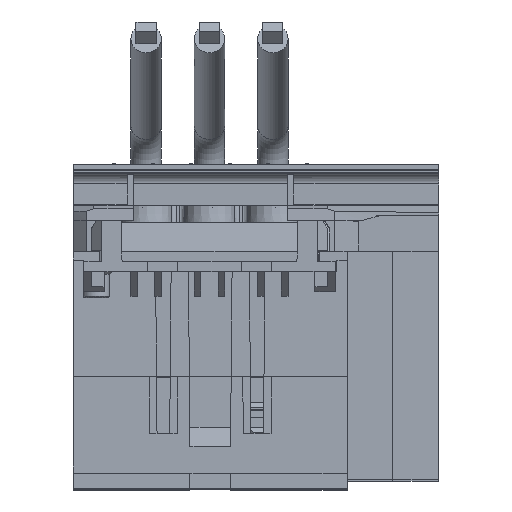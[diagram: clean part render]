
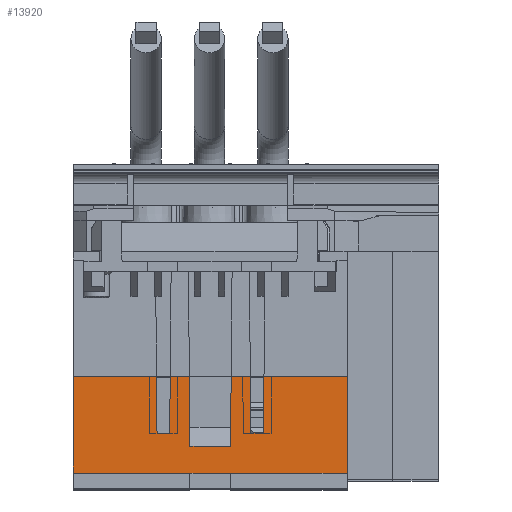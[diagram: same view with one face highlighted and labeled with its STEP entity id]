
A CAD part, top view. The second image highlights one B-rep face of the part: STEP entity #13920.
In plain terms, the highlighted planar face has unit normal (0, -0.009, 1).
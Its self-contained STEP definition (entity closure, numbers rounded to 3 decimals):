
#901 = CARTESIAN_POINT ( 'NONE',  ( -10.5, -15.7, 199.902 ) ) ;
#2065 = AXIS2_PLACEMENT_3D ( 'NONE', #58615, #24275, #66293 ) ;
#2462 = CARTESIAN_POINT ( 'NONE',  ( -4.122, -4.5, 199.999 ) ) ;
#2642 = VECTOR ( 'NONE', #19805, 1000. ) ;
#3294 = CARTESIAN_POINT ( 'NONE',  ( -7.902, -4.5, 199.999 ) ) ;
#4520 = CARTESIAN_POINT ( 'NONE',  ( -26., -4.5, 199.999 ) ) ;
#4852 = CARTESIAN_POINT ( 'NONE',  ( 10.778, 16.2, 200.18 ) ) ;
#5278 = CARTESIAN_POINT ( 'NONE',  ( -27., -4.5, 199.999 ) ) ;
#5394 = VECTOR ( 'NONE', #14022, 1000. ) ;
#6999 = CARTESIAN_POINT ( 'NONE',  ( -27., -23.5, 199.833 ) ) ;
#9077 = DIRECTION ( 'NONE',  ( 1., 0., 0. ) ) ;
#9949 = CARTESIAN_POINT ( 'NONE',  ( -26., -4.5, 199.999 ) ) ;
#10208 = ORIENTED_EDGE ( 'NONE', *, *, #100596, .T. ) ;
#10554 = EDGE_CURVE ( 'NONE', #44483, #92403, #46426, .T. ) ;
#10729 = ORIENTED_EDGE ( 'NONE', *, *, #18628, .T. ) ;
#11260 = VECTOR ( 'NONE', #68442, 1000. ) ;
#11266 = VECTOR ( 'NONE', #67540, 1000. ) ;
#11438 = VECTOR ( 'NONE', #52613, 1000. ) ;
#13920 = ADVANCED_FACE ( 'NONE', ( #87668 ), #75791, .T. ) ;
#14022 = DIRECTION ( 'NONE',  ( -0.009, 1., 0.009 ) ) ;
#14480 = CARTESIAN_POINT ( 'NONE',  ( -8., -15.7, 199.902 ) ) ;
#16299 = EDGE_CURVE ( 'NONE', #17974, #73134, #95301, .T. ) ;
#16620 = VERTEX_POINT ( 'NONE', #6999 ) ;
#17194 = LINE ( 'NONE', #106802, #5394 ) ;
#17327 = EDGE_CURVE ( 'NONE', #73105, #16620, #99123, .T. ) ;
#17813 = EDGE_CURVE ( 'NONE', #20520, #99945, #108241, .T. ) ;
#17974 = VERTEX_POINT ( 'NONE', #47900 ) ;
#18029 = ORIENTED_EDGE ( 'NONE', *, *, #90631, .T. ) ;
#18069 = VECTOR ( 'NONE', #26462, 1000. ) ;
#18628 = EDGE_CURVE ( 'NONE', #44005, #44483, #91063, .T. ) ;
#19145 = CARTESIAN_POINT ( 'NONE',  ( 4., -23.5, 199.833 ) ) ;
#19805 = DIRECTION ( 'NONE',  ( -1., 0., 0. ) ) ;
#20520 = VERTEX_POINT ( 'NONE', #62161 ) ;
#22175 = EDGE_CURVE ( 'NONE', #66764, #30173, #24003, .T. ) ;
#22722 = EDGE_CURVE ( 'NONE', #44005, #99945, #55235, .T. ) ;
#23904 = VECTOR ( 'NONE', #47453, 1000. ) ;
#24003 = LINE ( 'NONE', #67250, #43654 ) ;
#24135 = DIRECTION ( 'NONE',  ( 1., 0., 0. ) ) ;
#24275 = DIRECTION ( 'NONE',  ( 0., -0.009, 1. ) ) ;
#24940 = EDGE_CURVE ( 'NONE', #93990, #66809, #47301, .T. ) ;
#26462 = DIRECTION ( 'NONE',  ( 0., -1., -0.009 ) ) ;
#28219 = ORIENTED_EDGE ( 'NONE', *, *, #22175, .T. ) ;
#29994 = EDGE_CURVE ( 'NONE', #92403, #67408, #96053, .T. ) ;
#30173 = VERTEX_POINT ( 'NONE', #19145 ) ;
#31465 = ORIENTED_EDGE ( 'NONE', *, *, #17813, .T. ) ;
#32832 = CARTESIAN_POINT ( 'NONE',  ( 4.303, 16.2, 200.18 ) ) ;
#33882 = EDGE_CURVE ( 'NONE', #17974, #67408, #72770, .T. ) ;
#34920 = VECTOR ( 'NONE', #69590, 1000. ) ;
#37229 = EDGE_CURVE ( 'NONE', #16620, #66764, #47559, .T. ) ;
#40015 = ORIENTED_EDGE ( 'NONE', *, *, #16299, .T. ) ;
#40307 = CARTESIAN_POINT ( 'NONE',  ( -4.003, -18.18, 199.88 ) ) ;
#40560 = VECTOR ( 'NONE', #75544, 1000. ) ;
#40599 = CARTESIAN_POINT ( 'NONE',  ( -26., -23.5, 199.833 ) ) ;
#41861 = EDGE_CURVE ( 'NONE', #73134, #66015, #47195, .T. ) ;
#42562 = VECTOR ( 'NONE', #105496, 1000. ) ;
#42789 = LINE ( 'NONE', #9949, #11260 ) ;
#43347 = CARTESIAN_POINT ( 'NONE',  ( -4., -23.5, 199.833 ) ) ;
#43654 = VECTOR ( 'NONE', #9077, 1000. ) ;
#44005 = VERTEX_POINT ( 'NONE', #85795 ) ;
#44483 = VERTEX_POINT ( 'NONE', #70313 ) ;
#44705 = CARTESIAN_POINT ( 'NONE',  ( -26., -18.18, 199.88 ) ) ;
#44994 = LINE ( 'NONE', #40599, #55439 ) ;
#46426 = LINE ( 'NONE', #79631, #42562 ) ;
#46531 = VERTEX_POINT ( 'NONE', #3294 ) ;
#47002 = DIRECTION ( 'NONE',  ( -1., 0., 0. ) ) ;
#47195 = LINE ( 'NONE', #44705, #2642 ) ;
#47301 = LINE ( 'NONE', #71435, #89068 ) ;
#47453 = DIRECTION ( 'NONE',  ( 1., 0., 0. ) ) ;
#47559 = LINE ( 'NONE', #68654, #103618 ) ;
#47758 = CARTESIAN_POINT ( 'NONE',  ( 4.003, -18.18, 199.88 ) ) ;
#47900 = CARTESIAN_POINT ( 'NONE',  ( 4.122, -4.5, 199.999 ) ) ;
#52613 = DIRECTION ( 'NONE',  ( 0., 1., 0.009 ) ) ;
#53413 = CARTESIAN_POINT ( 'NONE',  ( 7.902, -4.5, 199.999 ) ) ;
#53553 = ORIENTED_EDGE ( 'NONE', *, *, #29994, .T. ) ;
#54479 = ORIENTED_EDGE ( 'NONE', *, *, #24940, .T. ) ;
#54804 = ORIENTED_EDGE ( 'NONE', *, *, #98631, .F. ) ;
#55235 = LINE ( 'NONE', #105436, #23904 ) ;
#55439 = VECTOR ( 'NONE', #24135, 1000. ) ;
#56040 = DIRECTION ( 'NONE',  ( -0.009, -1., -0.009 ) ) ;
#57892 = EDGE_LOOP ( 'NONE', ( #54804, #102265, #81844, #28219, #10208, #31465, #84963, #10729, #75899, #53553, #105656, #40015, #73697, #71765, #92293, #18029, #54479, #92045 ) ) ;
#58615 = CARTESIAN_POINT ( 'NONE',  ( -26., 18.5, 200.2 ) ) ;
#60302 = CARTESIAN_POINT ( 'NONE',  ( 27., 18.5, 200.2 ) ) ;
#61506 = EDGE_CURVE ( 'NONE', #66015, #63267, #71414, .T. ) ;
#62161 = CARTESIAN_POINT ( 'NONE',  ( 27., -23.5, 199.833 ) ) ;
#62847 = VECTOR ( 'NONE', #76423, 1000. ) ;
#63267 = VERTEX_POINT ( 'NONE', #2462 ) ;
#66015 = VERTEX_POINT ( 'NONE', #86285 ) ;
#66293 = DIRECTION ( 'NONE',  ( 0., -1., -0.009 ) ) ;
#66747 = DIRECTION ( 'NONE',  ( -0.009, 1., 0.009 ) ) ;
#66764 = VERTEX_POINT ( 'NONE', #43347 ) ;
#66809 = VERTEX_POINT ( 'NONE', #901 ) ;
#67196 = CARTESIAN_POINT ( 'NONE',  ( -26., -4.5, 199.999 ) ) ;
#67250 = CARTESIAN_POINT ( 'NONE',  ( -26., -23.5, 199.833 ) ) ;
#67408 = VERTEX_POINT ( 'NONE', #53413 ) ;
#67540 = DIRECTION ( 'NONE',  ( 1., 0., 0. ) ) ;
#67801 = CARTESIAN_POINT ( 'NONE',  ( 8., -15.7, 199.902 ) ) ;
#68442 = DIRECTION ( 'NONE',  ( 1., 0., 0. ) ) ;
#68654 = CARTESIAN_POINT ( 'NONE',  ( 4., -23.5, 199.833 ) ) ;
#69590 = DIRECTION ( 'NONE',  ( 1., 0., 0. ) ) ;
#70313 = CARTESIAN_POINT ( 'NONE',  ( 10.5, -15.7, 199.902 ) ) ;
#70519 = VERTEX_POINT ( 'NONE', #105980 ) ;
#71414 = LINE ( 'NONE', #40307, #101473 ) ;
#71435 = CARTESIAN_POINT ( 'NONE',  ( -26., -15.7, 199.902 ) ) ;
#71765 = ORIENTED_EDGE ( 'NONE', *, *, #61506, .T. ) ;
#72770 = LINE ( 'NONE', #67196, #11266 ) ;
#73105 = VERTEX_POINT ( 'NONE', #5278 ) ;
#73134 = VERTEX_POINT ( 'NONE', #47758 ) ;
#73687 = CARTESIAN_POINT ( 'NONE',  ( 8., -15.7, 199.902 ) ) ;
#73697 = ORIENTED_EDGE ( 'NONE', *, *, #41861, .T. ) ;
#75544 = DIRECTION ( 'NONE',  ( -0.009, -1., -0.009 ) ) ;
#75791 = PLANE ( 'NONE',  #2065 ) ;
#75899 = ORIENTED_EDGE ( 'NONE', *, *, #10554, .T. ) ;
#76423 = DIRECTION ( 'NONE',  ( -0.009, -1., -0.009 ) ) ;
#76901 = CARTESIAN_POINT ( 'NONE',  ( -27., 18.5, 200.2 ) ) ;
#79631 = CARTESIAN_POINT ( 'NONE',  ( -26., -15.7, 199.902 ) ) ;
#81844 = ORIENTED_EDGE ( 'NONE', *, *, #37229, .T. ) ;
#82910 = EDGE_CURVE ( 'NONE', #46531, #63267, #98919, .T. ) ;
#84963 = ORIENTED_EDGE ( 'NONE', *, *, #22722, .F. ) ;
#85795 = CARTESIAN_POINT ( 'NONE',  ( 10.598, -4.5, 199.999 ) ) ;
#86285 = CARTESIAN_POINT ( 'NONE',  ( -4.003, -18.18, 199.88 ) ) ;
#87668 = FACE_OUTER_BOUND ( 'NONE', #57892, .T. ) ;
#88225 = VECTOR ( 'NONE', #66747, 1000. ) ;
#88412 = VECTOR ( 'NONE', #56040, 1000. ) ;
#89068 = VECTOR ( 'NONE', #47002, 1000. ) ;
#90631 = EDGE_CURVE ( 'NONE', #46531, #93990, #99444, .T. ) ;
#91063 = LINE ( 'NONE', #4852, #88412 ) ;
#92045 = ORIENTED_EDGE ( 'NONE', *, *, #102447, .T. ) ;
#92107 = CARTESIAN_POINT ( 'NONE',  ( -7.722, 16.2, 200.18 ) ) ;
#92293 = ORIENTED_EDGE ( 'NONE', *, *, #82910, .F. ) ;
#92403 = VERTEX_POINT ( 'NONE', #73687 ) ;
#93990 = VERTEX_POINT ( 'NONE', #14480 ) ;
#95301 = LINE ( 'NONE', #32832, #40560 ) ;
#96053 = LINE ( 'NONE', #67801, #88225 ) ;
#98631 = EDGE_CURVE ( 'NONE', #73105, #70519, #42789, .T. ) ;
#98919 = LINE ( 'NONE', #4520, #34920 ) ;
#99123 = LINE ( 'NONE', #76901, #18069 ) ;
#99444 = LINE ( 'NONE', #92107, #62847 ) ;
#99790 = DIRECTION ( 'NONE',  ( -0.009, 1., 0.009 ) ) ;
#99945 = VERTEX_POINT ( 'NONE', #103874 ) ;
#100596 = EDGE_CURVE ( 'NONE', #30173, #20520, #44994, .T. ) ;
#101473 = VECTOR ( 'NONE', #99790, 1000. ) ;
#102265 = ORIENTED_EDGE ( 'NONE', *, *, #17327, .T. ) ;
#102447 = EDGE_CURVE ( 'NONE', #66809, #70519, #17194, .T. ) ;
#103618 = VECTOR ( 'NONE', #105086, 1000. ) ;
#103874 = CARTESIAN_POINT ( 'NONE',  ( 27., -4.5, 199.999 ) ) ;
#105086 = DIRECTION ( 'NONE',  ( 1., 0., 0. ) ) ;
#105436 = CARTESIAN_POINT ( 'NONE',  ( -26., -4.5, 199.999 ) ) ;
#105496 = DIRECTION ( 'NONE',  ( -1., 0., 0. ) ) ;
#105656 = ORIENTED_EDGE ( 'NONE', *, *, #33882, .F. ) ;
#105980 = CARTESIAN_POINT ( 'NONE',  ( -10.598, -4.5, 199.999 ) ) ;
#106802 = CARTESIAN_POINT ( 'NONE',  ( -10.5, -15.7, 199.902 ) ) ;
#108241 = LINE ( 'NONE', #60302, #11438 ) ;
